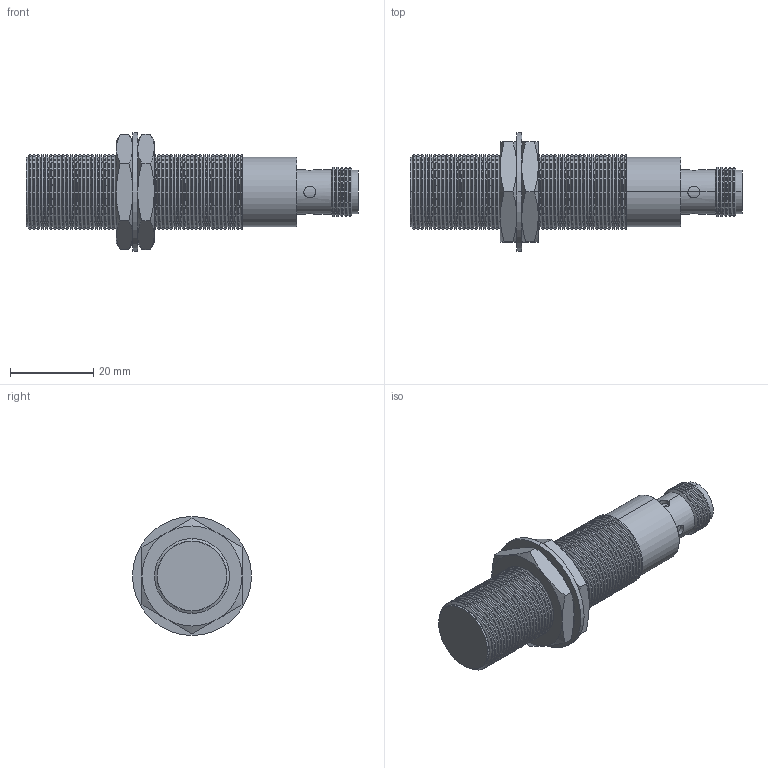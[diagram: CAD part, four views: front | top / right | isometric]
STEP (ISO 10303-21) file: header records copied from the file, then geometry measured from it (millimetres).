
FILE_DESCRIPTION (( 'STEP AP203' ), '1' );
FILE_NAME ('90-29417-073.STEP', '2016-04-25T18:27:07', ( 'Sam' ), ( 'Spade' ), 'SwSTEP 2.0', 'SolidWorks 2002296', '' );
FILE_SCHEMA (( 'CONFIG_CONTROL_DESIGN' ));
Length unit declared in the file: inch
Products named in the file (13): 90-29417-073; Imported1; Imported; Imported5; Imported4; Imported3; Imported2; Imported8; Imported7; Imported6; Imported11; Imported10; Imported9
Assembly tree (12 placements, depth 2):
  90-29417-073
    Imported5
    Imported4
    Imported8
    Imported10
    Imported1
    Imported2
    Imported9
    Imported6
    Imported11
    Imported3
    Imported
    Imported7
Bounding box: 79.76 x 28.57 x 28.57 mm (x, y, z)
Volume: 18862.1 mm3; surface area: 11848.7 mm2
Topology: 12 solids, 12 shells, 578 faces, 1263 edges, 703 vertices
Faces by surface type: cone 285, cylinder 200, plane 85, bspline 8
Entity records: 17491 total; most frequent: CARTESIAN_POINT 3287, DIRECTION 2940, ORIENTED_EDGE 2510, EDGE_CURVE 1255, AXIS2_PLACEMENT_3D 1164, VERTEX_POINT 703, LINE 612, VECTOR 612
